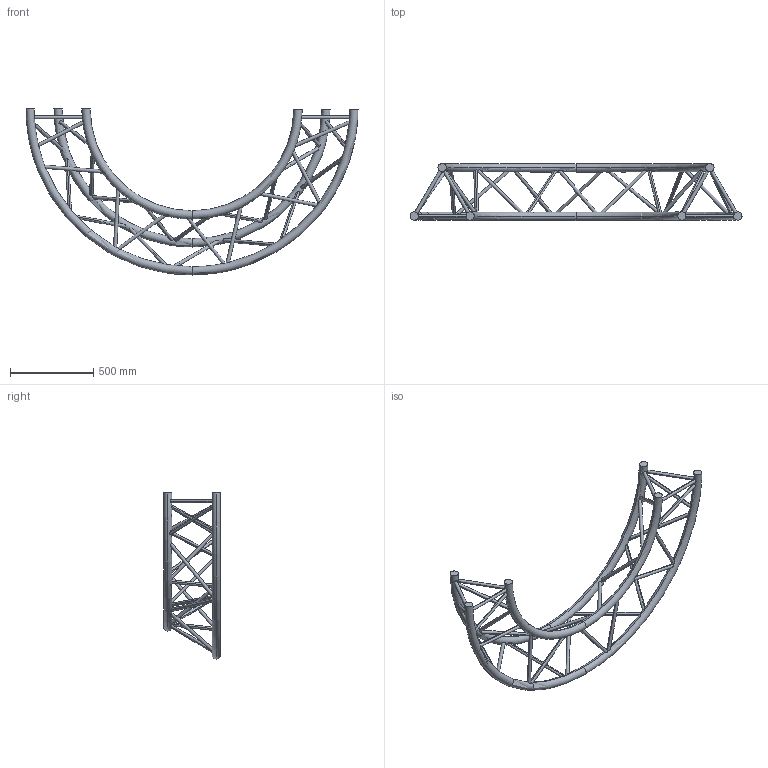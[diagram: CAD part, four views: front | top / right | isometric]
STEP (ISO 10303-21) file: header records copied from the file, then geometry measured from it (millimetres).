
FILE_DESCRIPTION (( 'STEP AP203' ), '1' );
FILE_NAME ('SXC39PH.STEP', '2009-10-21T11:23:41', ( 'CEDIA' ), ( 'CEDIA INDUSTRIE' ), 'SwSTEP 2.0', 'SolidWorks 2009', '' );
FILE_SCHEMA (( 'CONFIG_CONTROL_DESIGN' ));
Length unit declared in the file: millimetre
Products named in the file (1): SXC39PH
Bounding box: 2000 x 341.85 x 1000 mm (x, y, z)
Volume: 18486009.3 mm3; surface area: 1895306.1 mm2
Topology: 1 solids, 1 shells, 84 faces, 250 edges, 150 vertices
Faces by surface type: cylinder 66, torus 12, plane 6
Entity records: 9147 total; most frequent: CARTESIAN_POINT 6949, ORIENTED_EDGE 500, DIRECTION 340, EDGE_CURVE 250, VERTEX_POINT 150, AXIS2_PLACEMENT_3D 137, B_SPLINE_CURVE_WITH_KNOTS 132, EDGE_LOOP 128
